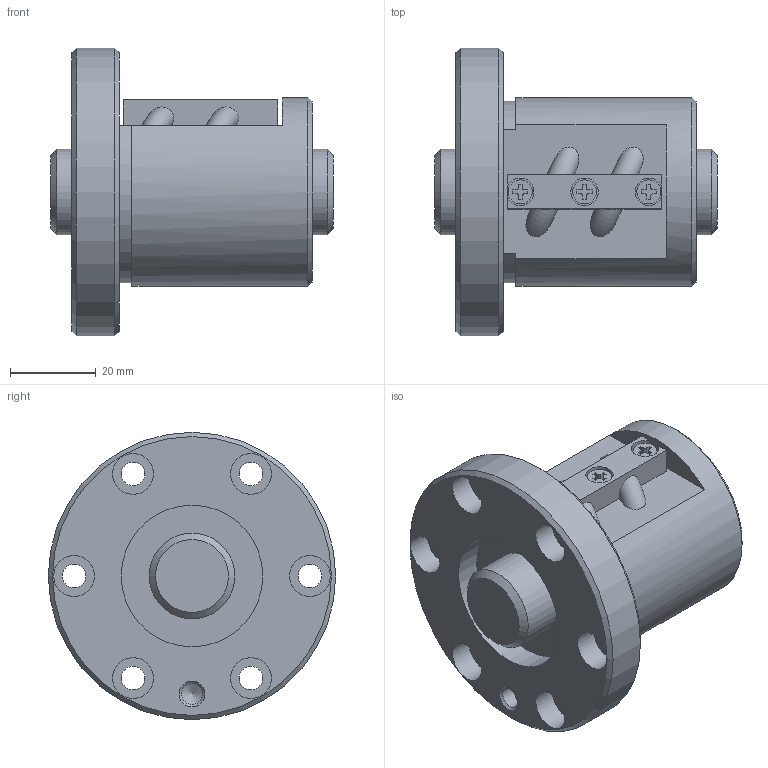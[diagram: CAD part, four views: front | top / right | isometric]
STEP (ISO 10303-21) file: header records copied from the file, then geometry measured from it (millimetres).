
FILE_DESCRIPTION(/* description */ ('STEP AP203'),/* implementation_level */ '2;1');
FILE_NAME(/* name */ 'SBN2005V-5G0+66LC0(0000)',/* time_stamp */ '2024-05-28T10:24:18+02:00',/* author */ ('License CC BY-ND 4.0'),/* organization */ ('CADENAS'),/* preprocessor_version */ 'ST-DEVELOPER v19.3',/* originating_system */ 'PARTsolutions',/* authorisation */ ' ');
FILE_SCHEMA (('CONFIG_CONTROL_DESIGN'));
Length unit declared in the file: millimetre
Products named in the file (3): SBN2005V-5G0+66LC0(0000); N010SBN2005V-50Shaft; N00SBN2005V-5Nut
Assembly tree (2 placements, depth 2):
  SBN2005V-5G0+66LC0(0000)
    N010SBN2005V-50Shaft
    N00SBN2005V-5Nut
Bounding box: 66 x 67 x 67 mm (x, y, z)
Volume: 96498 mm3; surface area: 25872.3 mm2
Topology: 2 solids, 2 shells, 121 faces, 285 edges, 188 vertices
Faces by surface type: plane 69, cylinder 41, cone 7, torus 4
Full cylindrical faces by diameter (mm): 4.8 x3, 4.917 x1, 5.5 x6, 5.6 x3, 6.4 x1, 9.5 x6, 20 x2, 33 x2, 44 x1, 67 x1
Entity records: 3471 total; most frequent: CARTESIAN_POINT 651, DIRECTION 578, ORIENTED_EDGE 498, EDGE_CURVE 249, AXIS2_PLACEMENT_3D 213, FACE_BOUND 189, EDGE_LOOP 188, VERTEX_POINT 186
